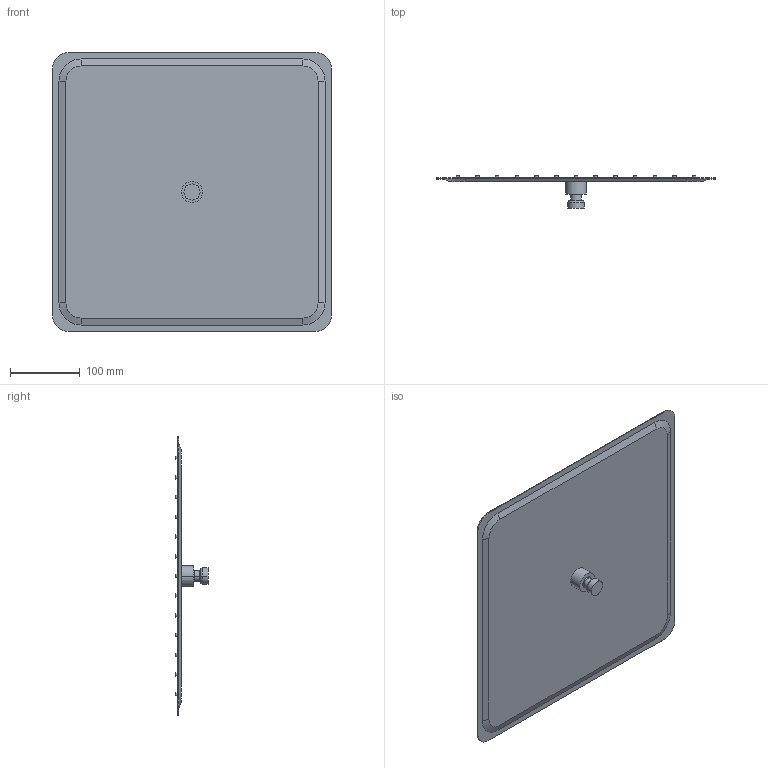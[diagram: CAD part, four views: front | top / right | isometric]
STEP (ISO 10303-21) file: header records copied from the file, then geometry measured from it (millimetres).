
FILE_DESCRIPTION((''),'2;1');
FILE_NAME('P34200','2020-03-16T13:28:34',('LF994'),(''),'CREO PARAMETRIC BY PTC INC, 2018500','CREO PARAMETRIC BY PTC INC, 2018500','');
FILE_SCHEMA(('CONFIG_CONTROL_DESIGN'));
Length unit declared in the file: millimetre
Products named in the file (1): P34200
Bounding box: 400 x 46 x 400 mm (x, y, z)
Volume: 748963.1 mm3; surface area: 332305.2 mm2
Topology: 1 solids, 1 shells, 540 faces, 1090 edges, 724 vertices
Faces by surface type: cylinder 348, plane 182, cone 6, torus 4
Entity records: 14500 total; most frequent: DIRECTION 2882, CARTESIAN_POINT 2354, ORIENTED_EDGE 2180, AXIS2_PLACEMENT_3D 1252, EDGE_CURVE 1090, VERTEX_POINT 724, EDGE_LOOP 712, CIRCLE 712
